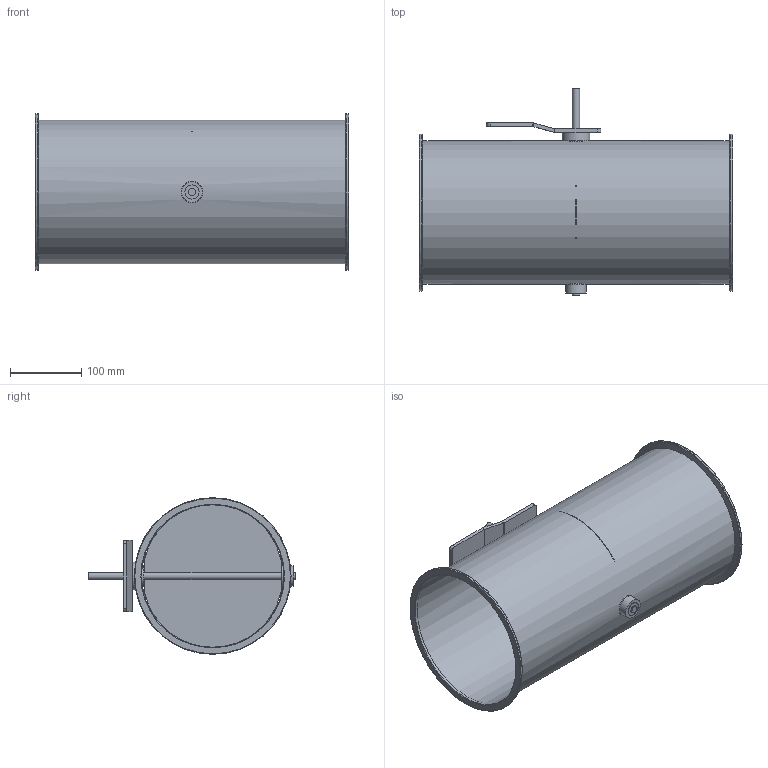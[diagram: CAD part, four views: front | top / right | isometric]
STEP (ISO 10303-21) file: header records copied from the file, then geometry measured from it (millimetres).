
FILE_DESCRIPTION(/* description */ (''),/* implementation_level */ '2;1');
FILE_NAME(/* name */ 'EA101-80B__200_L440_Belimo_Typ_SM.stp',/* time_stamp */ '2017-12-06T14:15:17+01:00',/* author */ (''),/* organization */ (''),/* preprocessor_version */ 'ST-DEVELOPER v11',/* originating_system */ 'SIEMENS UGS NX 6.0',/* authorisation */ '');
FILE_SCHEMA (('CONFIG_CONTROL_DESIGN'));
Length unit declared in the file: millimetre
Products named in the file (1): gars18E2j261
Bounding box: 440 x 290 x 220 mm (x, y, z)
Volume: 435994.2 mm3; surface area: 695910.1 mm2
Topology: 8 solids, 8 shells, 75 faces, 155 edges, 98 vertices
Faces by surface type: plane 36, cylinder 31, torus 6, cone 2
Full cylindrical faces by diameter (mm): 4.1 x3, 10 x3, 19 x3, 19.85 x2, 20 x2, 29 x1, 30 x2, 39 x1, 200 x1, 201.6 x1, 220 x2
Entity records: 1926 total; most frequent: CARTESIAN_POINT 348, DIRECTION 328, ORIENTED_EDGE 232, AXIS2_PLACEMENT_3D 140, EDGE_LOOP 128, EDGE_CURVE 116, FACE_BOUND 98, VERTEX_POINT 88
